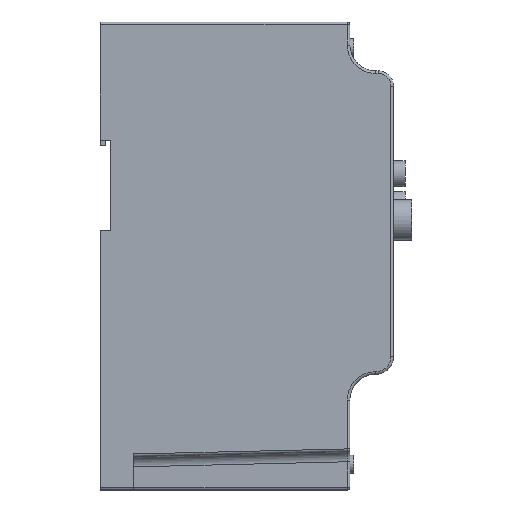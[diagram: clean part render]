
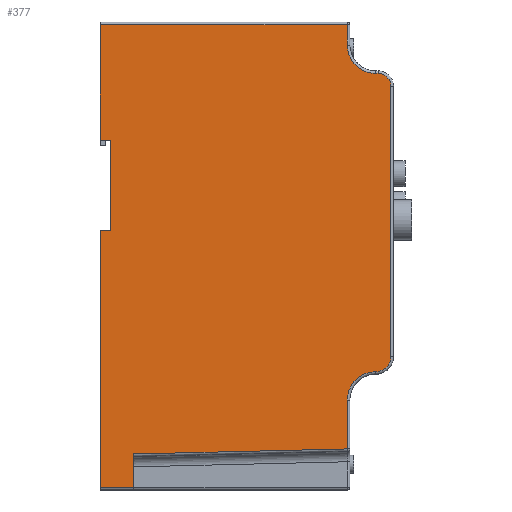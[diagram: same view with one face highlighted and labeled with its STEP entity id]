
A CAD part, front view. The second image highlights one B-rep face of the part: STEP entity #377.
In plain terms, the highlighted planar face has unit normal (0, -1, 0).
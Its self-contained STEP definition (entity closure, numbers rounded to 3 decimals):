
#377=ADVANCED_FACE('',(#2783),#2785,.T.);
#2783=FACE_BOUND('',#2784,.T.);
#2784=EDGE_LOOP('',(#5064,#5065,#5066,#5067,#5068,#5069,#5070,#5071,#5072,#5073,
#5074,#5075,#5076,#5077,#5078,#5079,#5080,#5081,#5082));
#2785=PLANE('',#2786);
#2786=AXIS2_PLACEMENT_3D('',#2787,#2788,#2789);
#2787=CARTESIAN_POINT('',(0.,-48.,91.));
#2788=DIRECTION('',(0.,-1.,0.));
#2789=DIRECTION('',(0.,0.,-1.));
#5064=ORIENTED_EDGE('',*,*,#6254,.F.);
#5065=ORIENTED_EDGE('',*,*,#6252,.T.);
#5066=ORIENTED_EDGE('',*,*,#6255,.T.);
#5067=ORIENTED_EDGE('',*,*,#6256,.T.);
#5068=ORIENTED_EDGE('',*,*,#6257,.T.);
#5069=ORIENTED_EDGE('',*,*,#6258,.T.);
#5070=ORIENTED_EDGE('',*,*,#6259,.T.);
#5071=ORIENTED_EDGE('',*,*,#6260,.T.);
#5072=ORIENTED_EDGE('',*,*,#6261,.T.);
#5073=ORIENTED_EDGE('',*,*,#6262,.T.);
#5074=ORIENTED_EDGE('',*,*,#6263,.T.);
#5075=ORIENTED_EDGE('',*,*,#6264,.F.);
#5076=ORIENTED_EDGE('',*,*,#6265,.T.);
#5077=ORIENTED_EDGE('',*,*,#6266,.T.);
#5078=ORIENTED_EDGE('',*,*,#6267,.T.);
#5079=ORIENTED_EDGE('',*,*,#6268,.T.);
#5080=ORIENTED_EDGE('',*,*,#6269,.T.);
#5081=ORIENTED_EDGE('',*,*,#6270,.T.);
#5082=ORIENTED_EDGE('',*,*,#6271,.F.);
#6252=EDGE_CURVE('',#6964,#6983,#6985,.T.);
#6254=EDGE_CURVE('',#6964,#6988,#6989,.T.);
#6255=EDGE_CURVE('',#6983,#6990,#6991,.F.);
#6256=EDGE_CURVE('',#6990,#6992,#6993,.F.);
#6257=EDGE_CURVE('',#6992,#6994,#6995,.F.);
#6258=EDGE_CURVE('',#6994,#6996,#6997,.F.);
#6259=EDGE_CURVE('',#6996,#6998,#6999,.F.);
#6260=EDGE_CURVE('',#6998,#7000,#7001,.T.);
#6261=EDGE_CURVE('',#7000,#7002,#7003,.T.);
#6262=EDGE_CURVE('',#7002,#7004,#7005,.F.);
#6263=EDGE_CURVE('',#7004,#7006,#7007,.F.);
#6264=EDGE_CURVE('',#7008,#7006,#7009,.T.);
#6265=EDGE_CURVE('',#7008,#7010,#7011,.T.);
#6266=EDGE_CURVE('',#7010,#7012,#7013,.T.);
#6267=EDGE_CURVE('',#7012,#7014,#7015,.T.);
#6268=EDGE_CURVE('',#7014,#7016,#7017,.T.);
#6269=EDGE_CURVE('',#7016,#7018,#7019,.T.);
#6270=EDGE_CURVE('',#7018,#7020,#7021,.T.);
#6271=EDGE_CURVE('',#6988,#7020,#7022,.T.);
#6964=VERTEX_POINT('',#8313);
#6983=VERTEX_POINT('',#8354);
#6985=LINE('',#8358,#8359);
#6988=VERTEX_POINT('',#8366);
#6989=LINE('',#8367,#8368);
#6990=VERTEX_POINT('',#8370);
#6991=LINE('',#8371,#8372);
#6992=VERTEX_POINT('',#8374);
#6993=CIRCLE('',#8375,0.5);
#6994=VERTEX_POINT('',#8379);
#6995=LINE('',#8380,#8381);
#6996=VERTEX_POINT('',#8383);
#6997=CIRCLE('',#8384,0.5);
#6998=VERTEX_POINT('',#8388);
#6999=LINE('',#8389,#8390);
#7000=VERTEX_POINT('',#8392);
#7001=LINE('',#8393,#8394);
#7002=VERTEX_POINT('',#8396);
#7003=LINE('',#8397,#8398);
#7004=VERTEX_POINT('',#8400);
#7005=LINE('',#8401,#8402);
#7006=VERTEX_POINT('',#8404);
#7007=LINE('',#8405,#8406);
#7008=VERTEX_POINT('',#8408);
#7009=LINE('',#8409,#8410);
#7010=VERTEX_POINT('',#8412);
#7011=CIRCLE('',#8413,11.);
#7012=VERTEX_POINT('',#8417);
#7013=CIRCLE('',#8418,6.);
#7014=VERTEX_POINT('',#8422);
#7015=LINE('',#8423,#8424);
#7016=VERTEX_POINT('',#8426);
#7017=CIRCLE('',#8427,5.);
#7018=VERTEX_POINT('',#8431);
#7019=LINE('',#8432,#8433);
#7020=VERTEX_POINT('',#8435);
#7021=CIRCLE('',#8436,11.);
#7022=LINE('',#8440,#8441);
#8313=CARTESIAN_POINT('',(0.,-48.,90.));
#8354=CARTESIAN_POINT('',(0.,-48.,45.));
#8358=CARTESIAN_POINT('',(0.,-48.,90.));
#8359=VECTOR('',#8360,1.);
#8360=DIRECTION('',(0.,0.,-1.));
#8366=CARTESIAN_POINT('',(96.,-48.,90.));
#8367=CARTESIAN_POINT('',(0.,-48.,90.));
#8368=VECTOR('',#8369,1.);
#8369=DIRECTION('',(1.,0.,0.));
#8370=CARTESIAN_POINT('',(3.5,-48.,45.));
#8371=CARTESIAN_POINT('',(3.5,-48.,45.));
#8372=VECTOR('',#8373,1.);
#8373=DIRECTION('',(-1.,0.,0.));
#8374=CARTESIAN_POINT('',(4.,-48.,44.5));
#8375=AXIS2_PLACEMENT_3D('',#8376,#8377,#8378);
#8376=CARTESIAN_POINT('',(3.5,-48.,44.5));
#8377=DIRECTION('',(0.,-1.,0.));
#8378=DIRECTION('',(1.,0.,0.));
#8379=CARTESIAN_POINT('',(4.,-48.,10.5));
#8380=CARTESIAN_POINT('',(4.,-48.,10.5));
#8381=VECTOR('',#8382,1.);
#8382=DIRECTION('',(0.,0.,1.));
#8383=CARTESIAN_POINT('',(3.5,-48.,10.));
#8384=AXIS2_PLACEMENT_3D('',#8385,#8386,#8387);
#8385=CARTESIAN_POINT('',(3.5,-48.,10.5));
#8386=DIRECTION('',(0.,-1.,0.));
#8387=DIRECTION('',(0.,0.,-1.));
#8388=CARTESIAN_POINT('',(0.,-48.,10.));
#8389=CARTESIAN_POINT('',(0.,-48.,10.));
#8390=VECTOR('',#8391,1.);
#8391=DIRECTION('',(1.,0.,0.));
#8392=CARTESIAN_POINT('',(0.,-48.,-90.));
#8393=CARTESIAN_POINT('',(0.,-48.,10.));
#8394=VECTOR('',#8395,1.);
#8395=DIRECTION('',(0.,0.,-1.));
#8396=CARTESIAN_POINT('',(13.,-48.,-90.));
#8397=CARTESIAN_POINT('',(0.,-48.,-90.));
#8398=VECTOR('',#8399,1.);
#8399=DIRECTION('',(1.,0.,0.));
#8400=CARTESIAN_POINT('',(13.,-48.,-77.));
#8401=CARTESIAN_POINT('',(13.,-48.,-77.));
#8402=VECTOR('',#8403,1.);
#8403=DIRECTION('',(0.,0.,-1.));
#8404=CARTESIAN_POINT('',(96.,-48.,-75.024));
#8405=CARTESIAN_POINT('',(96.,-48.,-75.024));
#8406=VECTOR('',#8407,1.);
#8407=DIRECTION('',(-1.,0.,-0.024));
#8408=CARTESIAN_POINT('',(96.,-48.,-56.));
#8409=CARTESIAN_POINT('',(96.,-48.,-56.));
#8410=VECTOR('',#8411,1.);
#8411=DIRECTION('',(0.,0.,-1.));
#8412=CARTESIAN_POINT('',(107.,-48.,-45.));
#8413=AXIS2_PLACEMENT_3D('',#8414,#8415,#8416);
#8414=CARTESIAN_POINT('',(107.,-48.,-56.));
#8415=DIRECTION('',(0.,1.,0.));
#8416=DIRECTION('',(-1.,0.,0.));
#8417=CARTESIAN_POINT('',(113.,-48.,-39.));
#8418=AXIS2_PLACEMENT_3D('',#8419,#8420,#8421);
#8419=CARTESIAN_POINT('',(107.,-48.,-39.));
#8420=DIRECTION('',(0.,-1.,0.));
#8421=DIRECTION('',(0.,0.,-1.));
#8422=CARTESIAN_POINT('',(113.,-48.,66.));
#8423=CARTESIAN_POINT('',(113.,-48.,-39.));
#8424=VECTOR('',#8425,1.);
#8425=DIRECTION('',(0.,0.,1.));
#8426=CARTESIAN_POINT('',(108.,-48.,71.));
#8427=AXIS2_PLACEMENT_3D('',#8428,#8429,#8430);
#8428=CARTESIAN_POINT('',(108.,-48.,66.));
#8429=DIRECTION('',(0.,-1.,0.));
#8430=DIRECTION('',(1.,0.,0.));
#8431=CARTESIAN_POINT('',(107.,-48.,71.));
#8432=CARTESIAN_POINT('',(108.,-48.,71.));
#8433=VECTOR('',#8434,1.);
#8434=DIRECTION('',(-1.,0.,0.));
#8435=CARTESIAN_POINT('',(96.,-48.,82.));
#8436=AXIS2_PLACEMENT_3D('',#8437,#8438,#8439);
#8437=CARTESIAN_POINT('',(107.,-48.,82.));
#8438=DIRECTION('',(0.,1.,0.));
#8439=DIRECTION('',(0.,0.,-1.));
#8440=CARTESIAN_POINT('',(96.,-48.,90.));
#8441=VECTOR('',#8442,1.);
#8442=DIRECTION('',(0.,0.,-1.));
